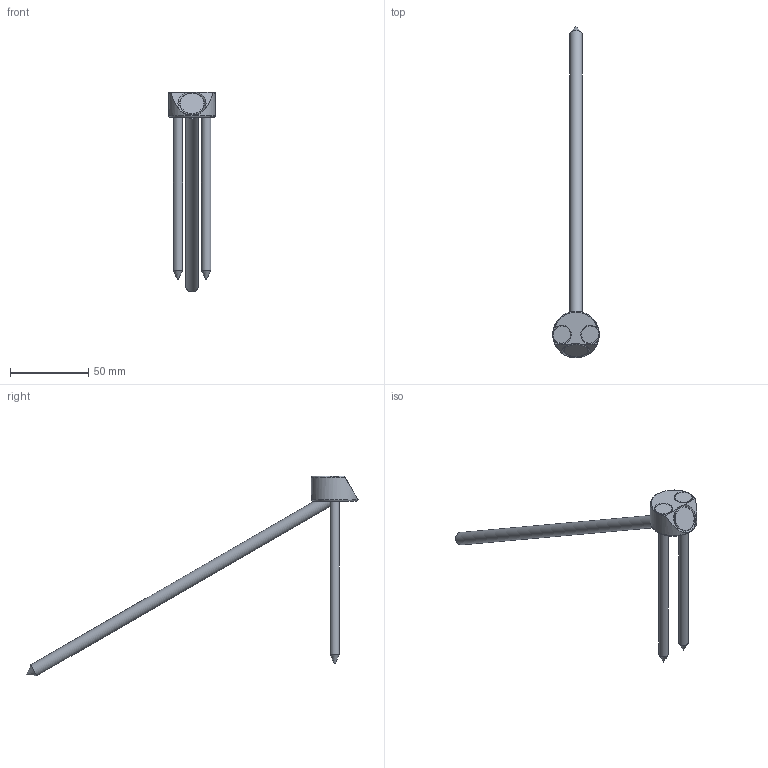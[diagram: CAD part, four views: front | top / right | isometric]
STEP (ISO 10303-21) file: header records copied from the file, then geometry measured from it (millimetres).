
FILE_DESCRIPTION(/* description */ ('Unknown'),/* implementation_level */ '2;1');
FILE_NAME(/* name */ 'T-JOINT_D30_W30_2xSK 6x120_1xSK 8x240',/* time_stamp */ '2022-02-03T09:19:20+01:00',/* author */ ('Unknown'),/* organization */ ('Unknown'),/* preprocessor_version */ 'ST-DEVELOPER v16.7',/* originating_system */ 'Solid Edge',/* authorisation */ 'Unknown');
FILE_SCHEMA (('AUTOMOTIVE_DESIGN {1 0 10303 214 3 1 1}'));
Length unit declared in the file: millimetre
Products named in the file (4): T-Joint_D30_W30_2xSK6x120_1xSK8x240; T-Joint_D30_W30; SK Schraube 6x120_ohne_Gewinde; SK Knapp Schraube 8x240_ohne_Gewinde_22042020
Assembly tree (4 placements, depth 2):
  T-Joint_D30_W30_2xSK6x120_1xSK8x240
    T-Joint_D30_W30
    SK Schraube 6x120_ohne_Gewinde  x2
    SK Knapp Schraube 8x240_ohne_Gewinde_22042020
Bounding box: 29.78 x 212.48 x 127.73 mm (x, y, z)
Volume: 26064.5 mm3; surface area: 14443.4 mm2
Topology: 4 solids, 4 shells, 33 faces, 74 edges, 45 vertices
Faces by surface type: cylinder 11, cone 10, plane 9, torus 3
Full cylindrical faces by diameter (mm): 6 x3, 6.2 x2, 8 x2, 10.5 x1, 11 x2
Entity records: 768 total; most frequent: CARTESIAN_POINT 140, DIRECTION 126, ORIENTED_EDGE 78, AXIS2_PLACEMENT_3D 62, FACE_BOUND 48, EDGE_LOOP 47, EDGE_CURVE 39, VERTEX_POINT 33
